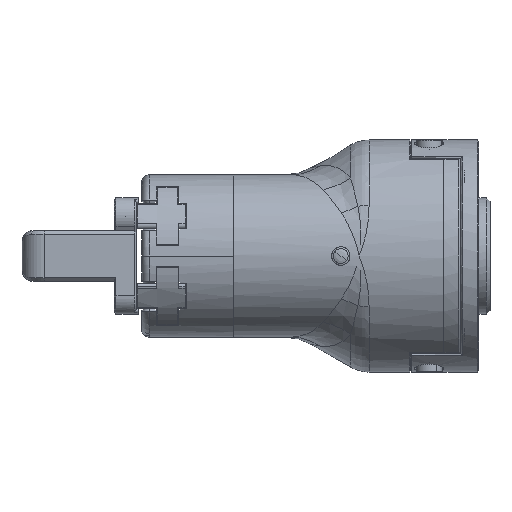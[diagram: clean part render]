
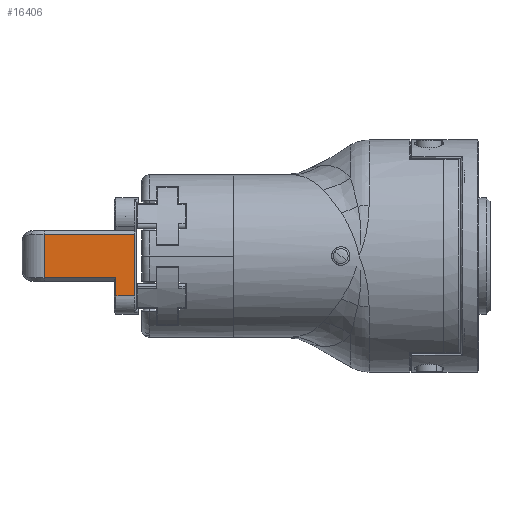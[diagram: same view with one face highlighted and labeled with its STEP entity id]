
A CAD part, left-side view. The second image highlights one B-rep face of the part: STEP entity #16406.
In plain terms, the highlighted planar face has unit normal (-1, 0, 0) as drawn and (0, 0, -1) by its records, which use the part's own axes.
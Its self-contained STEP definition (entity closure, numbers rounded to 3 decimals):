
#2317 = VERTEX_POINT ( 'NONE', #6577 ) ;
#2603 = CARTESIAN_POINT ( 'NONE',  ( 24.15, -108.5, -29. ) ) ;
#3360 = CARTESIAN_POINT ( 'NONE',  ( 5.85, -84., -29. ) ) ;
#4283 = CARTESIAN_POINT ( 'NONE',  ( -10.85, -84., -29. ) ) ;
#4497 = DIRECTION ( 'NONE',  ( 0., 1., 0. ) ) ;
#6577 = CARTESIAN_POINT ( 'NONE',  ( -5.85, -108.5, -29. ) ) ;
#6615 = PLANE ( 'NONE',  #53522 ) ;
#7410 = VERTEX_POINT ( 'NONE', #4283 ) ;
#8369 = ORIENTED_EDGE ( 'NONE', *, *, #33167, .T. ) ;
#10151 = VECTOR ( 'NONE', #52229, 1000. ) ;
#10718 = VECTOR ( 'NONE', #28711, 1000. ) ;
#15521 = LINE ( 'NONE', #45071, #64404 ) ;
#15644 = CARTESIAN_POINT ( 'NONE',  ( -10.85, -89., -29. ) ) ;
#16406 = ADVANCED_FACE ( 'NONE', ( #48190 ), #6615, .F. ) ;
#16511 = EDGE_CURVE ( 'NONE', #7410, #44242, #54214, .T. ) ;
#16825 = CARTESIAN_POINT ( 'NONE',  ( 5.85, -108.5, -29. ) ) ;
#27720 = LINE ( 'NONE', #2603, #38650 ) ;
#28711 = DIRECTION ( 'NONE',  ( 1., 0., 0. ) ) ;
#28976 = CARTESIAN_POINT ( 'NONE',  ( -10.85, -89., -29. ) ) ;
#29693 = CARTESIAN_POINT ( 'NONE',  ( -15.85, -84., -29. ) ) ;
#32751 = DIRECTION ( 'NONE',  ( 0., 0., 1. ) ) ;
#33167 = EDGE_CURVE ( 'NONE', #36904, #59620, #39062, .T. ) ;
#33427 = CARTESIAN_POINT ( 'NONE',  ( -15.85, -89.5, -29. ) ) ;
#34472 = EDGE_CURVE ( 'NONE', #59620, #7410, #45483, .T. ) ;
#35279 = ORIENTED_EDGE ( 'NONE', *, *, #58156, .T. ) ;
#36904 = VERTEX_POINT ( 'NONE', #46448 ) ;
#38650 = VECTOR ( 'NONE', #38814, 1000. ) ;
#38814 = DIRECTION ( 'NONE',  ( -1., 0., 0. ) ) ;
#39062 = LINE ( 'NONE', #28976, #40984 ) ;
#40465 = DIRECTION ( 'NONE',  ( 0., 1., 0. ) ) ;
#40984 = VECTOR ( 'NONE', #49470, 1000. ) ;
#42785 = ORIENTED_EDGE ( 'NONE', *, *, #61090, .T. ) ;
#44242 = VERTEX_POINT ( 'NONE', #3360 ) ;
#45071 = CARTESIAN_POINT ( 'NONE',  ( -5.85, -89.5, -29. ) ) ;
#45483 = LINE ( 'NONE', #61875, #56001 ) ;
#46448 = CARTESIAN_POINT ( 'NONE',  ( -5.85, -89., -29. ) ) ;
#46582 = ORIENTED_EDGE ( 'NONE', *, *, #63751, .T. ) ;
#48190 = FACE_OUTER_BOUND ( 'NONE', #54430, .T. ) ;
#49470 = DIRECTION ( 'NONE',  ( -1., 0., 0. ) ) ;
#50395 = ORIENTED_EDGE ( 'NONE', *, *, #34472, .T. ) ;
#51903 = CARTESIAN_POINT ( 'NONE',  ( 5.85, -89.5, -29. ) ) ;
#52229 = DIRECTION ( 'NONE',  ( 0., -1., 0. ) ) ;
#53522 = AXIS2_PLACEMENT_3D ( 'NONE', #33427, #32751, #58248 ) ;
#54214 = LINE ( 'NONE', #29693, #10718 ) ;
#54430 = EDGE_LOOP ( 'NONE', ( #50395, #62680, #46582, #42785, #35279, #8369 ) ) ;
#56001 = VECTOR ( 'NONE', #40465, 1000. ) ;
#58156 = EDGE_CURVE ( 'NONE', #2317, #36904, #15521, .T. ) ;
#58248 = DIRECTION ( 'NONE',  ( 1., 0., 0. ) ) ;
#59620 = VERTEX_POINT ( 'NONE', #15644 ) ;
#61090 = EDGE_CURVE ( 'NONE', #64896, #2317, #27720, .T. ) ;
#61612 = LINE ( 'NONE', #51903, #10151 ) ;
#61875 = CARTESIAN_POINT ( 'NONE',  ( -10.85, -89.5, -29. ) ) ;
#62680 = ORIENTED_EDGE ( 'NONE', *, *, #16511, .T. ) ;
#63751 = EDGE_CURVE ( 'NONE', #44242, #64896, #61612, .T. ) ;
#64404 = VECTOR ( 'NONE', #4497, 1000. ) ;
#64896 = VERTEX_POINT ( 'NONE', #16825 ) ;
